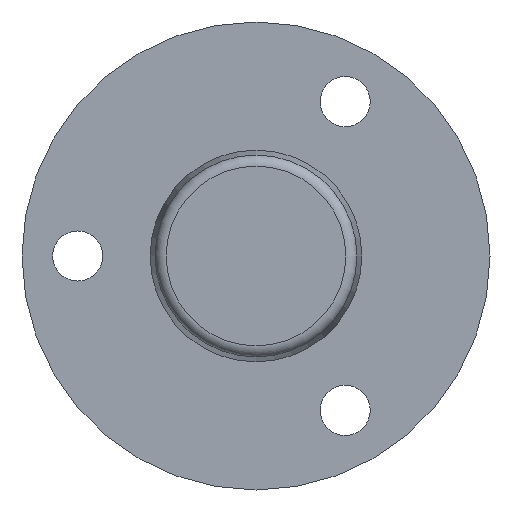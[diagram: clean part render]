
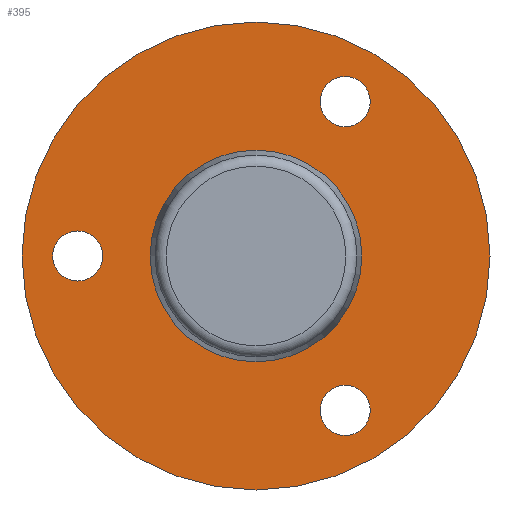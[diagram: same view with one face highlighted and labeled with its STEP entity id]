
A CAD part, left-side view. The second image highlights one B-rep face of the part: STEP entity #395.
In plain terms, the highlighted planar face has unit normal (-1, 0, 0).
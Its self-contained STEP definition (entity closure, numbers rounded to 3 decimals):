
#24=FACE_BOUND('',#80,.T.);
#25=FACE_BOUND('',#81,.T.);
#26=FACE_BOUND('',#82,.T.);
#27=FACE_BOUND('',#83,.T.);
#35=PLANE('',#456);
#50=FACE_OUTER_BOUND('',#79,.T.);
#79=EDGE_LOOP('',(#285));
#80=EDGE_LOOP('',(#286));
#81=EDGE_LOOP('',(#287));
#82=EDGE_LOOP('',(#288));
#83=EDGE_LOOP('',(#289));
#137=CIRCLE('',#432,2.25);
#141=CIRCLE('',#439,2.25);
#145=CIRCLE('',#446,2.25);
#150=CIRCLE('',#455,9.);
#151=CIRCLE('',#457,21.);
#169=VERTEX_POINT('',#627);
#173=VERTEX_POINT('',#640);
#177=VERTEX_POINT('',#653);
#182=VERTEX_POINT('',#670);
#183=VERTEX_POINT('',#674);
#200=EDGE_CURVE('',#169,#169,#137,.T.);
#206=EDGE_CURVE('',#173,#173,#141,.T.);
#212=EDGE_CURVE('',#177,#177,#145,.T.);
#219=EDGE_CURVE('',#182,#182,#150,.T.);
#221=EDGE_CURVE('',#183,#183,#151,.T.);
#285=ORIENTED_EDGE('',*,*,#221,.F.);
#286=ORIENTED_EDGE('',*,*,#200,.T.);
#287=ORIENTED_EDGE('',*,*,#206,.T.);
#288=ORIENTED_EDGE('',*,*,#212,.T.);
#289=ORIENTED_EDGE('',*,*,#219,.T.);
#395=ADVANCED_FACE('',(#50,#24,#25,#26,#27),#35,.T.);
#432=AXIS2_PLACEMENT_3D('',#629,#495,#496);
#439=AXIS2_PLACEMENT_3D('',#642,#511,#512);
#446=AXIS2_PLACEMENT_3D('',#655,#527,#528);
#455=AXIS2_PLACEMENT_3D('',#671,#547,#548);
#456=AXIS2_PLACEMENT_3D('',#673,#550,#551);
#457=AXIS2_PLACEMENT_3D('',#675,#552,#553);
#495=DIRECTION('center_axis',(1.,0.,0.));
#496=DIRECTION('ref_axis',(0.,-0.866,0.5));
#511=DIRECTION('center_axis',(1.,0.,0.));
#512=DIRECTION('ref_axis',(0.,0.866,0.5));
#527=DIRECTION('center_axis',(1.,0.,0.));
#528=DIRECTION('ref_axis',(0.,0.,-1.));
#547=DIRECTION('center_axis',(1.,0.,0.));
#548=DIRECTION('ref_axis',(0.,0.,-1.));
#550=DIRECTION('center_axis',(-1.,0.,0.));
#551=DIRECTION('ref_axis',(0.,0.,1.));
#552=DIRECTION('center_axis',(1.,0.,0.));
#553=DIRECTION('ref_axis',(0.,0.,-1.));
#627=CARTESIAN_POINT('',(72.,-6.051,-14.981));
#629=CARTESIAN_POINT('Origin',(72.,-8.,-13.856));
#640=CARTESIAN_POINT('',(72.,-9.949,12.731));
#642=CARTESIAN_POINT('Origin',(72.,-8.,13.856));
#653=CARTESIAN_POINT('',(72.,16.,2.25));
#655=CARTESIAN_POINT('Origin',(72.,16.,0.));
#670=CARTESIAN_POINT('',(72.,-9.,0.));
#671=CARTESIAN_POINT('Origin',(72.,0.,0.));
#673=CARTESIAN_POINT('Origin',(72.,21.,0.));
#674=CARTESIAN_POINT('',(72.,-21.,0.));
#675=CARTESIAN_POINT('Origin',(72.,0.,0.));
